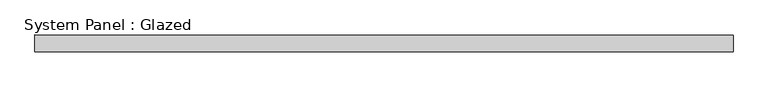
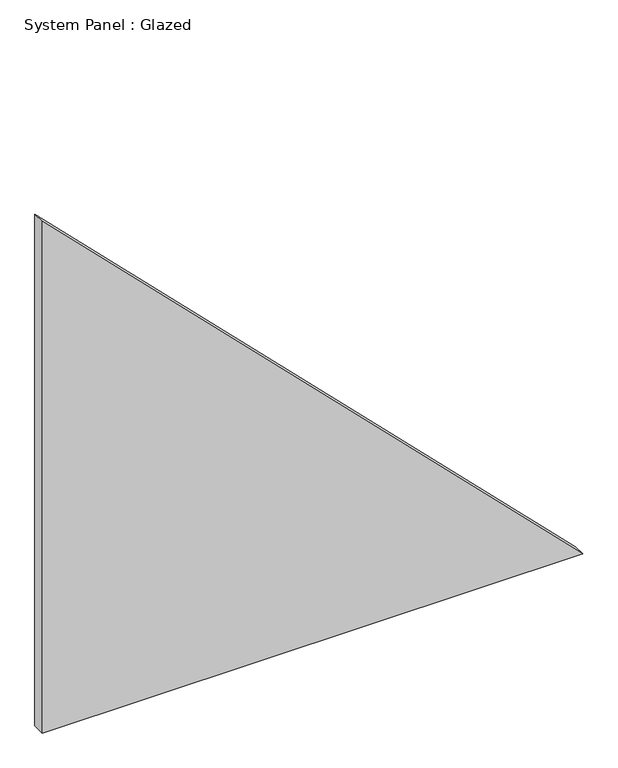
"""IFC4 building model written with IfcOpenShell, lengths in millimetres: plate geometry, System Panel : Glazed."""

from ifc_helpers import new_model, si_unit, frame, origin, place, context, project, spatial, polyline, outline, extrude, source, transform, mapped, element, save


def system_panel_glazed_7ef1f697(model_context):
    return source(origin(), model_context, "Body", "SweptSolid", [
        extrude(outline(polyline([(0.0, -532.9487195), (0.0, 532.9487195), (1065.897439, -532.9487195), (0.0, -532.9487195)])), frame((0.0, 19.05, 0.0), z_axis=(0.0, 1.0, 0.0), x_axis=(0.0, 0.0, 1.0)), (0.0, 0.0, 1.0), 25.4),
    ])


if __name__ == "__main__":
    model = new_model("IFC4")
    model_context = context("Model", 3, world=origin())
    ifc_project = project(units=[si_unit("LENGTHUNIT", "METRE", prefix="MILLI")], contexts=[model_context])
    site = spatial("IfcSite", under=ifc_project)
    building = spatial("IfcBuilding", under=site)
    placement = place(None, origin())
    system_panel_glazed_shape = system_panel_glazed_7ef1f697(model_context)
    element("IfcPlate", 1, ObjectType="System Panel : Glazed", at=placement, inside=building, context=model_context, shape_type="MappedRepresentation", body=[
        mapped(system_panel_glazed_shape, transform((0.0, 0.0, 0.0), x_axis=(1.0, 0.0, 0.0), y_axis=(0.0, 1.0, 0.0), z_axis=(0.0, 0.0, 1.0))),
    ])
    save(model, "model.ifc")
